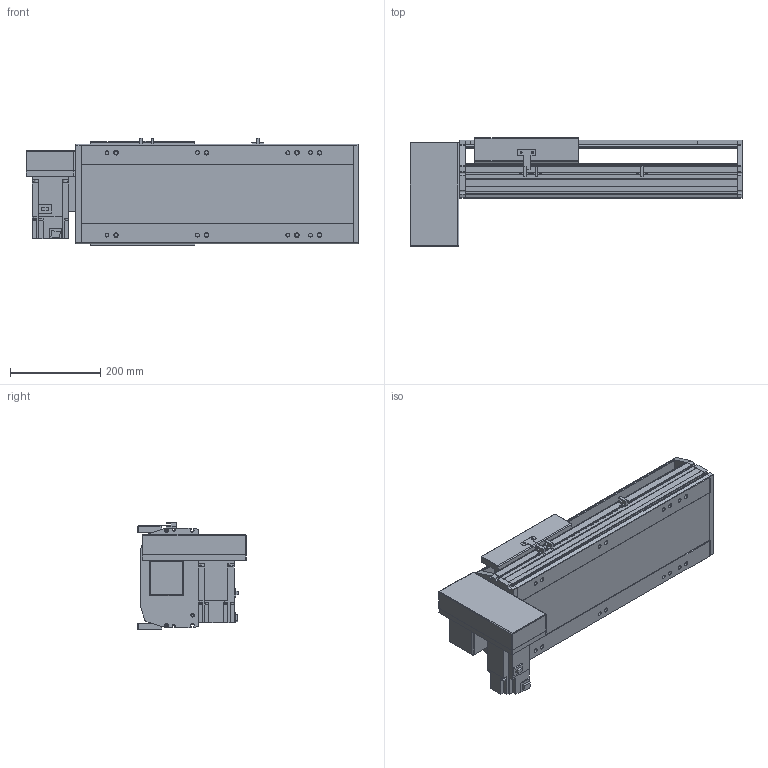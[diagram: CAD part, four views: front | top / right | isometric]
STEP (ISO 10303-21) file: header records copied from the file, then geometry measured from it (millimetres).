
FILE_DESCRIPTION(/* description */ ('STEP AP214'),/* implementation_level */ '2;1');
FILE_NAME(/* name */ 'PBS220-P40-S250-RD-T75-C1-N(0)',/* time_stamp */ '2022-06-13T02:40:37+02:00',/* author */ ('License CC BY-ND 4.0'),/* organization */ ('CADENAS'),/* preprocessor_version */ 'ST-DEVELOPER v18.102',/* originating_system */ 'PARTsolutions',/* authorisation */ ' ');
FILE_SCHEMA (('AUTOMOTIVE_DESIGN {1 0 10303 214 3 1 1}'));
Length unit declared in the file: millimetre
Products named in the file (7): PBS220-P40-S250-RD-T75-C1-N(0); PBS220_sensor; PBS220_plant; PBS220_sliser; T75-p1; PBS220T-RD_motors; PBS220-S250()_body
Assembly tree (8 placements, depth 2):
  PBS220-P40-S250-RD-T75-C1-N(0)
    PBS220_sensor  x3
    PBS220_plant
    PBS220_sliser
    T75-p1
    PBS220T-RD_motors
    PBS220-S250()_body
Bounding box: 734 x 239 x 238.5 mm (x, y, z)
Volume: 11352156.5 mm3; surface area: 1242226.7 mm2
Topology: 8 solids, 8 shells, 866 faces, 2284 edges, 1486 vertices
Faces by surface type: plane 582, cylinder 252, cone 32
Full cylindrical faces by diameter (mm): 2.013 x4, 4.5 x14, 4.917 x4, 6 x7, 6.647 x8, 8 x10, 8.376 x8, 8.5 x8, 10 x6, 14 x8, 38 x2, 40 x1, 70 x1
Entity records: 24381 total; most frequent: DIRECTION 4239, CARTESIAN_POINT 4228, ORIENTED_EDGE 3962, EDGE_CURVE 1981, AXIS2_PLACEMENT_3D 1451, VERTEX_POINT 1352, LINE 1337, VECTOR 1337
